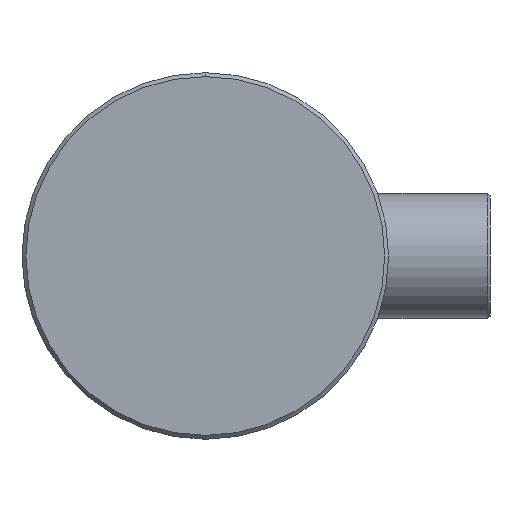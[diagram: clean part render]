
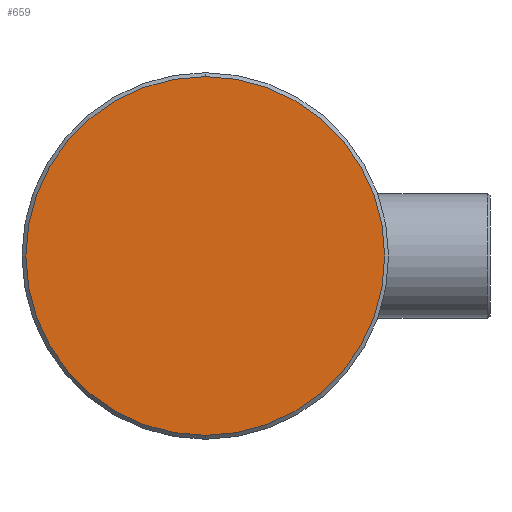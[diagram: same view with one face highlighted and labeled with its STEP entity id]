
A CAD part, left-side view. The second image highlights one B-rep face of the part: STEP entity #659.
In plain terms, the highlighted planar face has unit normal (-1, 0, 0).
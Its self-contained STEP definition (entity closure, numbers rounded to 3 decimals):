
#11 = DIRECTION ( 'NONE',  ( -1., 0., 0. ) ) ;
#20 = AXIS2_PLACEMENT_3D ( 'NONE', #1008, #196, #1142 ) ;
#108 = CARTESIAN_POINT ( 'NONE',  ( 0., 0., -23. ) ) ;
#109 = DIRECTION ( 'NONE',  ( 0., 0., -1. ) ) ;
#196 = DIRECTION ( 'NONE',  ( -1., 0., 0. ) ) ;
#252 = DIRECTION ( 'NONE',  ( 1., 0., 0. ) ) ;
#268 = EDGE_LOOP ( 'NONE', ( #1271, #1135 ) ) ;
#425 = EDGE_CURVE ( 'NONE', #1447, #596, #1423, .T. ) ;
#596 = VERTEX_POINT ( 'NONE', #897 ) ;
#644 = FACE_OUTER_BOUND ( 'NONE', #268, .T. ) ;
#659 = ADVANCED_FACE ( 'NONE', ( #644 ), #917, .F. ) ;
#806 = CARTESIAN_POINT ( 'NONE',  ( 0., 0., 0. ) ) ;
#897 = CARTESIAN_POINT ( 'NONE',  ( 0., 0., 23. ) ) ;
#917 = PLANE ( 'NONE',  #925 ) ;
#925 = AXIS2_PLACEMENT_3D ( 'NONE', #1723, #252, #109 ) ;
#947 = DIRECTION ( 'NONE',  ( 0., 0., 1. ) ) ;
#957 = AXIS2_PLACEMENT_3D ( 'NONE', #806, #11, #947 ) ;
#1008 = CARTESIAN_POINT ( 'NONE',  ( 0., 0., 0. ) ) ;
#1135 = ORIENTED_EDGE ( 'NONE', *, *, #1299, .T. ) ;
#1142 = DIRECTION ( 'NONE',  ( 0., 0., 1. ) ) ;
#1271 = ORIENTED_EDGE ( 'NONE', *, *, #425, .T. ) ;
#1299 = EDGE_CURVE ( 'NONE', #596, #1447, #1659, .T. ) ;
#1423 = CIRCLE ( 'NONE', #957, 23. ) ;
#1447 = VERTEX_POINT ( 'NONE', #108 ) ;
#1659 = CIRCLE ( 'NONE', #20, 23. ) ;
#1723 = CARTESIAN_POINT ( 'NONE',  ( 0., 0., 0. ) ) ;
